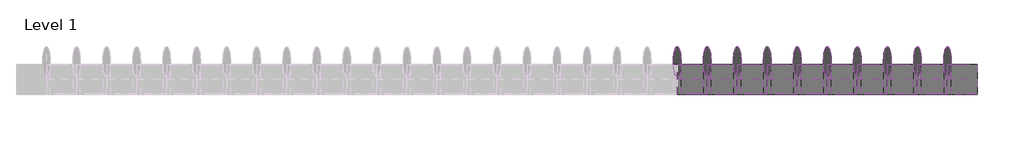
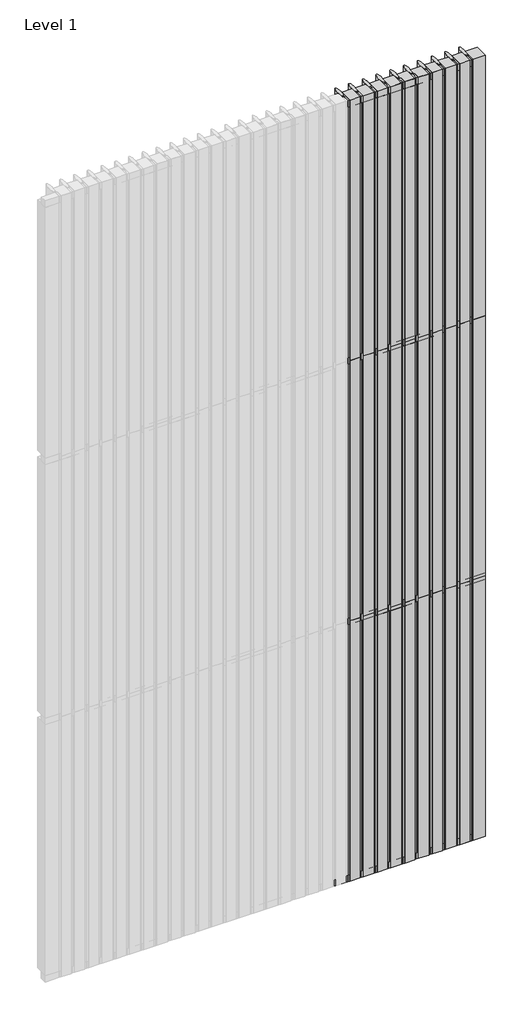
# One storey, part 6 of 6: 71 members, 60 plates.
"""IFC4 building model written with IfcOpenShell, lengths in millimetres."""

from ifc_helpers import new_model, si_unit, origin, place, context, project, spatial, transform, mapped, element, save
from components import rectangular_mullion_31e9810d, rectangular_mullion_a3e25429, rectangular_mullion_cddbc660, rectangular_mullion_ae434dd9, empty_system_panel_empty_b0df5d9c, empty_system_panel_empty_de76a839, empty_system_panel_empty_5411477d, empty_system_panel_empty_c50988b4

model = new_model("IFC4")

# Units and contexts
model_context = context("Model", 3, world=origin())
ifc_project = project(units=[si_unit("LENGTHUNIT", "METRE", prefix="MILLI")], contexts=[model_context])

# Site, building, storey
site = spatial("IfcSite", under=ifc_project)
building = spatial("IfcBuilding", under=site)
storey = spatial("IfcBuildingStorey", under=building, Name="Level 1", Elevation=0.0)

# Members
placement = place(None, origin())
rectangular_mullion_shape = rectangular_mullion_31e9810d(model_context)
element("IfcMember", 1, ObjectType="Rectangular Mullion : RSen_21_CWM_blade - 100 ellips - 0°_gen_duco projects", at=placement, inside=storey, context=model_context, shape_type="MappedRepresentation", body=[
    mapped(rectangular_mullion_shape, transform((5900.0, 3000.0, 0.0), x_axis=(-1.0, 0.0, 0.0), y_axis=(0.0, 1.0, 0.0), z_axis=(0.0, 0.0, -1.0))),
])
element("IfcMember", 2, ObjectType="Rectangular Mullion : RSen_21_CWM_blade - 100 ellips - 0°_gen_duco projects", at=placement, inside=storey, context=model_context, shape_type="MappedRepresentation", body=[
    mapped(rectangular_mullion_shape, transform((5800.0, 3000.0, 0.0), x_axis=(-1.0, 0.0, 0.0), y_axis=(0.0, 1.0, 0.0), z_axis=(0.0, 0.0, -1.0))),
])
element("IfcMember", 3, ObjectType="Rectangular Mullion : RSen_21_CWM_blade - 100 ellips - 0°_gen_duco projects", at=placement, inside=storey, context=model_context, shape_type="MappedRepresentation", body=[
    mapped(rectangular_mullion_shape, transform((5700.0, 3000.0, 0.0), x_axis=(-1.0, 0.0, 0.0), y_axis=(0.0, 1.0, 0.0), z_axis=(0.0, 0.0, -1.0))),
])
element("IfcMember", 4, ObjectType="Rectangular Mullion : RSen_21_CWM_blade - 100 ellips - 0°_gen_duco projects", at=placement, inside=storey, context=model_context, shape_type="MappedRepresentation", body=[
    mapped(rectangular_mullion_shape, transform((5600.0, 3000.0, 0.0), x_axis=(-1.0, 0.0, 0.0), y_axis=(0.0, 1.0, 0.0), z_axis=(0.0, 0.0, -1.0))),
])
element("IfcMember", 5, ObjectType="Rectangular Mullion : RSen_21_CWM_blade - 100 ellips - 0°_gen_duco projects", at=placement, inside=storey, context=model_context, shape_type="MappedRepresentation", body=[
    mapped(rectangular_mullion_shape, transform((5500.0, 3000.0, 0.0), x_axis=(-1.0, 0.0, 0.0), y_axis=(0.0, 1.0, 0.0), z_axis=(0.0, 0.0, -1.0))),
])
element("IfcMember", 6, ObjectType="Rectangular Mullion : RSen_21_CWM_blade - 100 ellips - 0°_gen_duco projects", at=placement, inside=storey, context=model_context, shape_type="MappedRepresentation", body=[
    mapped(rectangular_mullion_shape, transform((5400.0, 3000.0, 0.0), x_axis=(-1.0, 0.0, 0.0), y_axis=(0.0, 1.0, 0.0), z_axis=(0.0, 0.0, -1.0))),
])
element("IfcMember", 7, ObjectType="Rectangular Mullion : RSen_21_CWM_blade - 100 ellips - 0°_gen_duco projects", at=placement, inside=storey, context=model_context, shape_type="MappedRepresentation", body=[
    mapped(rectangular_mullion_shape, transform((5300.0, 3000.0, 0.0), x_axis=(-1.0, 0.0, 0.0), y_axis=(0.0, 1.0, 0.0), z_axis=(0.0, 0.0, -1.0))),
])
element("IfcMember", 8, ObjectType="Rectangular Mullion : RSen_21_CWM_blade - 100 ellips - 0°_gen_duco projects", at=placement, inside=storey, context=model_context, shape_type="MappedRepresentation", body=[
    mapped(rectangular_mullion_shape, transform((5200.0, 3000.0, 0.0), x_axis=(-1.0, 0.0, 0.0), y_axis=(0.0, 1.0, 0.0), z_axis=(0.0, 0.0, -1.0))),
])
element("IfcMember", 9, ObjectType="Rectangular Mullion : RSen_21_CWM_blade - 100 ellips - 0°_gen_duco projects", at=placement, inside=storey, context=model_context, shape_type="MappedRepresentation", body=[
    mapped(rectangular_mullion_shape, transform((5100.0, 3000.0, 0.0), x_axis=(-1.0, 0.0, 0.0), y_axis=(0.0, 1.0, 0.0), z_axis=(0.0, 0.0, -1.0))),
])
element("IfcMember", 10, ObjectType="Rectangular Mullion : RSen_21_CWM_blade - 100 ellips - 0°_gen_duco projects", at=placement, inside=storey, context=model_context, shape_type="MappedRepresentation", body=[
    mapped(rectangular_mullion_shape, transform((5000.0, 3000.0, 0.0), x_axis=(-1.0, 0.0, 0.0), y_axis=(0.0, 1.0, 0.0), z_axis=(0.0, 0.0, -1.0))),
])
element("IfcMember", 11, ObjectType="Rectangular Mullion : RSen_21_CWM_blade - 100 ellips - 0°_gen_duco projects", at=placement, inside=storey, context=model_context, shape_type="MappedRepresentation", body=[
    mapped(rectangular_mullion_shape, transform((5900.0, 3000.0, 2000.0), x_axis=(-1.0, 0.0, 0.0), y_axis=(0.0, 1.0, 0.0), z_axis=(0.0, 0.0, -1.0))),
])
element("IfcMember", 12, ObjectType="Rectangular Mullion : RSen_21_CWM_blade - 100 ellips - 0°_gen_duco projects", at=placement, inside=storey, context=model_context, shape_type="MappedRepresentation", body=[
    mapped(rectangular_mullion_shape, transform((5800.0, 3000.0, 2000.0), x_axis=(-1.0, 0.0, 0.0), y_axis=(0.0, 1.0, 0.0), z_axis=(0.0, 0.0, -1.0))),
])
element("IfcMember", 13, ObjectType="Rectangular Mullion : RSen_21_CWM_blade - 100 ellips - 0°_gen_duco projects", at=placement, inside=storey, context=model_context, shape_type="MappedRepresentation", body=[
    mapped(rectangular_mullion_shape, transform((5700.0, 3000.0, 2000.0), x_axis=(-1.0, 0.0, 0.0), y_axis=(0.0, 1.0, 0.0), z_axis=(0.0, 0.0, -1.0))),
])
element("IfcMember", 14, ObjectType="Rectangular Mullion : RSen_21_CWM_blade - 100 ellips - 0°_gen_duco projects", at=placement, inside=storey, context=model_context, shape_type="MappedRepresentation", body=[
    mapped(rectangular_mullion_shape, transform((5600.0, 3000.0, 2000.0), x_axis=(-1.0, 0.0, 0.0), y_axis=(0.0, 1.0, 0.0), z_axis=(0.0, 0.0, -1.0))),
])
element("IfcMember", 15, ObjectType="Rectangular Mullion : RSen_21_CWM_blade - 100 ellips - 0°_gen_duco projects", at=placement, inside=storey, context=model_context, shape_type="MappedRepresentation", body=[
    mapped(rectangular_mullion_shape, transform((5500.0, 3000.0, 2000.0), x_axis=(-1.0, 0.0, 0.0), y_axis=(0.0, 1.0, 0.0), z_axis=(0.0, 0.0, -1.0))),
])
element("IfcMember", 16, ObjectType="Rectangular Mullion : RSen_21_CWM_blade - 100 ellips - 0°_gen_duco projects", at=placement, inside=storey, context=model_context, shape_type="MappedRepresentation", body=[
    mapped(rectangular_mullion_shape, transform((5400.0, 3000.0, 2000.0), x_axis=(-1.0, 0.0, 0.0), y_axis=(0.0, 1.0, 0.0), z_axis=(0.0, 0.0, -1.0))),
])
element("IfcMember", 17, ObjectType="Rectangular Mullion : RSen_21_CWM_blade - 100 ellips - 0°_gen_duco projects", at=placement, inside=storey, context=model_context, shape_type="MappedRepresentation", body=[
    mapped(rectangular_mullion_shape, transform((5300.0, 3000.0, 2000.0), x_axis=(-1.0, 0.0, 0.0), y_axis=(0.0, 1.0, 0.0), z_axis=(0.0, 0.0, -1.0))),
])
element("IfcMember", 18, ObjectType="Rectangular Mullion : RSen_21_CWM_blade - 100 ellips - 0°_gen_duco projects", at=placement, inside=storey, context=model_context, shape_type="MappedRepresentation", body=[
    mapped(rectangular_mullion_shape, transform((5200.0, 3000.0, 2000.0), x_axis=(-1.0, 0.0, 0.0), y_axis=(0.0, 1.0, 0.0), z_axis=(0.0, 0.0, -1.0))),
])
element("IfcMember", 19, ObjectType="Rectangular Mullion : RSen_21_CWM_blade - 100 ellips - 0°_gen_duco projects", at=placement, inside=storey, context=model_context, shape_type="MappedRepresentation", body=[
    mapped(rectangular_mullion_shape, transform((5100.0, 3000.0, 2000.0), x_axis=(-1.0, 0.0, 0.0), y_axis=(0.0, 1.0, 0.0), z_axis=(0.0, 0.0, -1.0))),
])
element("IfcMember", 20, ObjectType="Rectangular Mullion : RSen_21_CWM_blade - 100 ellips - 0°_gen_duco projects", at=placement, inside=storey, context=model_context, shape_type="MappedRepresentation", body=[
    mapped(rectangular_mullion_shape, transform((5000.0, 3000.0, 2000.0), x_axis=(-1.0, 0.0, 0.0), y_axis=(0.0, 1.0, 0.0), z_axis=(0.0, 0.0, -1.0))),
])
element("IfcMember", 21, ObjectType="Rectangular Mullion : RSen_21_CWM_blade - 100 ellips - 0°_gen_duco projects", at=placement, inside=storey, context=model_context, shape_type="MappedRepresentation", body=[
    mapped(rectangular_mullion_shape, transform((5900.0, 3000.0, 4000.0), x_axis=(-1.0, 0.0, 0.0), y_axis=(0.0, 1.0, 0.0), z_axis=(0.0, 0.0, -1.0))),
])
element("IfcMember", 22, ObjectType="Rectangular Mullion : RSen_21_CWM_blade - 100 ellips - 0°_gen_duco projects", at=placement, inside=storey, context=model_context, shape_type="MappedRepresentation", body=[
    mapped(rectangular_mullion_shape, transform((5800.0, 3000.0, 4000.0), x_axis=(-1.0, 0.0, 0.0), y_axis=(0.0, 1.0, 0.0), z_axis=(0.0, 0.0, -1.0))),
])
element("IfcMember", 23, ObjectType="Rectangular Mullion : RSen_21_CWM_blade - 100 ellips - 0°_gen_duco projects", at=placement, inside=storey, context=model_context, shape_type="MappedRepresentation", body=[
    mapped(rectangular_mullion_shape, transform((5700.0, 3000.0, 4000.0), x_axis=(-1.0, 0.0, 0.0), y_axis=(0.0, 1.0, 0.0), z_axis=(0.0, 0.0, -1.0))),
])
element("IfcMember", 24, ObjectType="Rectangular Mullion : RSen_21_CWM_blade - 100 ellips - 0°_gen_duco projects", at=placement, inside=storey, context=model_context, shape_type="MappedRepresentation", body=[
    mapped(rectangular_mullion_shape, transform((5600.0, 3000.0, 4000.0), x_axis=(-1.0, 0.0, 0.0), y_axis=(0.0, 1.0, 0.0), z_axis=(0.0, 0.0, -1.0))),
])
element("IfcMember", 25, ObjectType="Rectangular Mullion : RSen_21_CWM_blade - 100 ellips - 0°_gen_duco projects", at=placement, inside=storey, context=model_context, shape_type="MappedRepresentation", body=[
    mapped(rectangular_mullion_shape, transform((5500.0, 3000.0, 4000.0), x_axis=(-1.0, 0.0, 0.0), y_axis=(0.0, 1.0, 0.0), z_axis=(0.0, 0.0, -1.0))),
])
element("IfcMember", 26, ObjectType="Rectangular Mullion : RSen_21_CWM_blade - 100 ellips - 0°_gen_duco projects", at=placement, inside=storey, context=model_context, shape_type="MappedRepresentation", body=[
    mapped(rectangular_mullion_shape, transform((5400.0, 3000.0, 4000.0), x_axis=(-1.0, 0.0, 0.0), y_axis=(0.0, 1.0, 0.0), z_axis=(0.0, 0.0, -1.0))),
])
element("IfcMember", 27, ObjectType="Rectangular Mullion : RSen_21_CWM_blade - 100 ellips - 0°_gen_duco projects", at=placement, inside=storey, context=model_context, shape_type="MappedRepresentation", body=[
    mapped(rectangular_mullion_shape, transform((5300.0, 3000.0, 4000.0), x_axis=(-1.0, 0.0, 0.0), y_axis=(0.0, 1.0, 0.0), z_axis=(0.0, 0.0, -1.0))),
])
element("IfcMember", 28, ObjectType="Rectangular Mullion : RSen_21_CWM_blade - 100 ellips - 0°_gen_duco projects", at=placement, inside=storey, context=model_context, shape_type="MappedRepresentation", body=[
    mapped(rectangular_mullion_shape, transform((5200.0, 3000.0, 4000.0), x_axis=(-1.0, 0.0, 0.0), y_axis=(0.0, 1.0, 0.0), z_axis=(0.0, 0.0, -1.0))),
])
element("IfcMember", 29, ObjectType="Rectangular Mullion : RSen_21_CWM_blade - 100 ellips - 0°_gen_duco projects", at=placement, inside=storey, context=model_context, shape_type="MappedRepresentation", body=[
    mapped(rectangular_mullion_shape, transform((5100.0, 3000.0, 4000.0), x_axis=(-1.0, 0.0, 0.0), y_axis=(0.0, 1.0, 0.0), z_axis=(0.0, 0.0, -1.0))),
])
element("IfcMember", 30, ObjectType="Rectangular Mullion : RSen_21_CWM_blade - 100 ellips - 0°_gen_duco projects", at=placement, inside=storey, context=model_context, shape_type="MappedRepresentation", body=[
    mapped(rectangular_mullion_shape, transform((5000.0, 3000.0, 4000.0), x_axis=(-1.0, 0.0, 0.0), y_axis=(0.0, 1.0, 0.0), z_axis=(0.0, 0.0, -1.0))),
])
rectangular_mullion_2_shape = rectangular_mullion_a3e25429(model_context)
element("IfcMember", 31, ObjectType="Rectangular Mullion : RSen_21_CWM_support profile 50x50 - right_gen_duco projects", at=placement, inside=storey, context=model_context, shape_type="MappedRepresentation", body=[
    mapped(rectangular_mullion_2_shape, transform((6000.0, 3000.0, 0.0), x_axis=(0.0, 0.0, -1.0), y_axis=(0.0, 1.0, 0.0), z_axis=(1.0, 0.0, 0.0))),
])
rectangular_mullion_3_shape = rectangular_mullion_cddbc660(model_context)
element("IfcMember", 32, ObjectType="Rectangular Mullion : RSen_21_CWM_support profile 50x50 - left_gen_duco projects", at=placement, inside=storey, context=model_context, shape_type="MappedRepresentation", body=[
    mapped(rectangular_mullion_3_shape, transform((5900.0, 3000.0, 6000.0), x_axis=(0.0, 0.0, 1.0), y_axis=(0.0, 1.0, 0.0), z_axis=(-1.0, 0.0, 0.0))),
])
element("IfcMember", 33, ObjectType="Rectangular Mullion : RSen_21_CWM_support profile 50x50 - left_gen_duco projects", at=placement, inside=storey, context=model_context, shape_type="MappedRepresentation", body=[
    mapped(rectangular_mullion_3_shape, transform((5800.0, 3000.0, 6000.0), x_axis=(0.0, 0.0, 1.0), y_axis=(0.0, 1.0, 0.0), z_axis=(-1.0, 0.0, 0.0))),
])
element("IfcMember", 34, ObjectType="Rectangular Mullion : RSen_21_CWM_support profile 50x50 - left_gen_duco projects", at=placement, inside=storey, context=model_context, shape_type="MappedRepresentation", body=[
    mapped(rectangular_mullion_3_shape, transform((5700.0, 3000.0, 6000.0), x_axis=(0.0, 0.0, 1.0), y_axis=(0.0, 1.0, 0.0), z_axis=(-1.0, 0.0, 0.0))),
])
element("IfcMember", 35, ObjectType="Rectangular Mullion : RSen_21_CWM_support profile 50x50 - left_gen_duco projects", at=placement, inside=storey, context=model_context, shape_type="MappedRepresentation", body=[
    mapped(rectangular_mullion_3_shape, transform((5600.0, 3000.0, 6000.0), x_axis=(0.0, 0.0, 1.0), y_axis=(0.0, 1.0, 0.0), z_axis=(-1.0, 0.0, 0.0))),
])
element("IfcMember", 36, ObjectType="Rectangular Mullion : RSen_21_CWM_support profile 50x50 - left_gen_duco projects", at=placement, inside=storey, context=model_context, shape_type="MappedRepresentation", body=[
    mapped(rectangular_mullion_3_shape, transform((5500.0, 3000.0, 6000.0), x_axis=(0.0, 0.0, 1.0), y_axis=(0.0, 1.0, 0.0), z_axis=(-1.0, 0.0, 0.0))),
])
element("IfcMember", 37, ObjectType="Rectangular Mullion : RSen_21_CWM_support profile 50x50 - left_gen_duco projects", at=placement, inside=storey, context=model_context, shape_type="MappedRepresentation", body=[
    mapped(rectangular_mullion_3_shape, transform((5400.0, 3000.0, 6000.0), x_axis=(0.0, 0.0, 1.0), y_axis=(0.0, 1.0, 0.0), z_axis=(-1.0, 0.0, 0.0))),
])
element("IfcMember", 38, ObjectType="Rectangular Mullion : RSen_21_CWM_support profile 50x50 - left_gen_duco projects", at=placement, inside=storey, context=model_context, shape_type="MappedRepresentation", body=[
    mapped(rectangular_mullion_3_shape, transform((5300.0, 3000.0, 6000.0), x_axis=(0.0, 0.0, 1.0), y_axis=(0.0, 1.0, 0.0), z_axis=(-1.0, 0.0, 0.0))),
])
element("IfcMember", 39, ObjectType="Rectangular Mullion : RSen_21_CWM_support profile 50x50 - left_gen_duco projects", at=placement, inside=storey, context=model_context, shape_type="MappedRepresentation", body=[
    mapped(rectangular_mullion_3_shape, transform((5200.0, 3000.0, 6000.0), x_axis=(0.0, 0.0, 1.0), y_axis=(0.0, 1.0, 0.0), z_axis=(-1.0, 0.0, 0.0))),
])
element("IfcMember", 40, ObjectType="Rectangular Mullion : RSen_21_CWM_support profile 50x50 - left_gen_duco projects", at=placement, inside=storey, context=model_context, shape_type="MappedRepresentation", body=[
    mapped(rectangular_mullion_3_shape, transform((5100.0, 3000.0, 6000.0), x_axis=(0.0, 0.0, 1.0), y_axis=(0.0, 1.0, 0.0), z_axis=(-1.0, 0.0, 0.0))),
])
element("IfcMember", 41, ObjectType="Rectangular Mullion : RSen_21_CWM_support profile 50x50 - left_gen_duco projects", at=placement, inside=storey, context=model_context, shape_type="MappedRepresentation", body=[
    mapped(rectangular_mullion_3_shape, transform((5000.0, 3000.0, 6000.0), x_axis=(0.0, 0.0, 1.0), y_axis=(0.0, 1.0, 0.0), z_axis=(-1.0, 0.0, 0.0))),
])
element("IfcMember", 42, ObjectType="Rectangular Mullion : RSen_21_CWM_support profile 50x50 - right_gen_duco projects", at=placement, inside=storey, context=model_context, shape_type="MappedRepresentation", body=[
    mapped(rectangular_mullion_2_shape, transform((5900.0, 3000.0, 0.0), x_axis=(0.0, 0.0, -1.0), y_axis=(0.0, 1.0, 0.0), z_axis=(1.0, 0.0, 0.0))),
])
element("IfcMember", 43, ObjectType="Rectangular Mullion : RSen_21_CWM_support profile 50x50 - right_gen_duco projects", at=placement, inside=storey, context=model_context, shape_type="MappedRepresentation", body=[
    mapped(rectangular_mullion_2_shape, transform((5800.0, 3000.0, 0.0), x_axis=(0.0, 0.0, -1.0), y_axis=(0.0, 1.0, 0.0), z_axis=(1.0, 0.0, 0.0))),
])
element("IfcMember", 44, ObjectType="Rectangular Mullion : RSen_21_CWM_support profile 50x50 - right_gen_duco projects", at=placement, inside=storey, context=model_context, shape_type="MappedRepresentation", body=[
    mapped(rectangular_mullion_2_shape, transform((5700.0, 3000.0, 0.0), x_axis=(0.0, 0.0, -1.0), y_axis=(0.0, 1.0, 0.0), z_axis=(1.0, 0.0, 0.0))),
])
element("IfcMember", 45, ObjectType="Rectangular Mullion : RSen_21_CWM_support profile 50x50 - right_gen_duco projects", at=placement, inside=storey, context=model_context, shape_type="MappedRepresentation", body=[
    mapped(rectangular_mullion_2_shape, transform((5600.0, 3000.0, 0.0), x_axis=(0.0, 0.0, -1.0), y_axis=(0.0, 1.0, 0.0), z_axis=(1.0, 0.0, 0.0))),
])
element("IfcMember", 46, ObjectType="Rectangular Mullion : RSen_21_CWM_support profile 50x50 - right_gen_duco projects", at=placement, inside=storey, context=model_context, shape_type="MappedRepresentation", body=[
    mapped(rectangular_mullion_2_shape, transform((5500.0, 3000.0, 0.0), x_axis=(0.0, 0.0, -1.0), y_axis=(0.0, 1.0, 0.0), z_axis=(1.0, 0.0, 0.0))),
])
element("IfcMember", 47, ObjectType="Rectangular Mullion : RSen_21_CWM_support profile 50x50 - right_gen_duco projects", at=placement, inside=storey, context=model_context, shape_type="MappedRepresentation", body=[
    mapped(rectangular_mullion_2_shape, transform((5400.0, 3000.0, 0.0), x_axis=(0.0, 0.0, -1.0), y_axis=(0.0, 1.0, 0.0), z_axis=(1.0, 0.0, 0.0))),
])
element("IfcMember", 48, ObjectType="Rectangular Mullion : RSen_21_CWM_support profile 50x50 - right_gen_duco projects", at=placement, inside=storey, context=model_context, shape_type="MappedRepresentation", body=[
    mapped(rectangular_mullion_2_shape, transform((5300.0, 3000.0, 0.0), x_axis=(0.0, 0.0, -1.0), y_axis=(0.0, 1.0, 0.0), z_axis=(1.0, 0.0, 0.0))),
])
element("IfcMember", 49, ObjectType="Rectangular Mullion : RSen_21_CWM_support profile 50x50 - right_gen_duco projects", at=placement, inside=storey, context=model_context, shape_type="MappedRepresentation", body=[
    mapped(rectangular_mullion_2_shape, transform((5200.0, 3000.0, 0.0), x_axis=(0.0, 0.0, -1.0), y_axis=(0.0, 1.0, 0.0), z_axis=(1.0, 0.0, 0.0))),
])
element("IfcMember", 50, ObjectType="Rectangular Mullion : RSen_21_CWM_support profile 50x50 - right_gen_duco projects", at=placement, inside=storey, context=model_context, shape_type="MappedRepresentation", body=[
    mapped(rectangular_mullion_2_shape, transform((5100.0, 3000.0, 0.0), x_axis=(0.0, 0.0, -1.0), y_axis=(0.0, 1.0, 0.0), z_axis=(1.0, 0.0, 0.0))),
])
element("IfcMember", 51, ObjectType="Rectangular Mullion : RSen_21_CWM_support profile 50x50 - right_gen_duco projects", at=placement, inside=storey, context=model_context, shape_type="MappedRepresentation", body=[
    mapped(rectangular_mullion_2_shape, transform((5000.0, 3000.0, 0.0), x_axis=(0.0, 0.0, -1.0), y_axis=(0.0, 1.0, 0.0), z_axis=(1.0, 0.0, 0.0))),
])
rectangular_mullion_4_shape = rectangular_mullion_ae434dd9(model_context)
element("IfcMember", 52, ObjectType="Rectangular Mullion : RSen_21_CWM_support profile 50x50_gen_duco projects", at=placement, inside=storey, context=model_context, shape_type="MappedRepresentation", body=[
    mapped(rectangular_mullion_4_shape, transform((5900.0, 3000.0, 2000.0), x_axis=(0.0, 0.0, 1.0), y_axis=(0.0, 1.0, 0.0), z_axis=(-1.0, 0.0, 0.0))),
])
element("IfcMember", 53, ObjectType="Rectangular Mullion : RSen_21_CWM_support profile 50x50_gen_duco projects", at=placement, inside=storey, context=model_context, shape_type="MappedRepresentation", body=[
    mapped(rectangular_mullion_4_shape, transform((5900.0, 3000.0, 4000.0), x_axis=(0.0, 0.0, 1.0), y_axis=(0.0, 1.0, 0.0), z_axis=(-1.0, 0.0, 0.0))),
])
element("IfcMember", 54, ObjectType="Rectangular Mullion : RSen_21_CWM_support profile 50x50_gen_duco projects", at=placement, inside=storey, context=model_context, shape_type="MappedRepresentation", body=[
    mapped(rectangular_mullion_4_shape, transform((5800.0, 3000.0, 2000.0), x_axis=(0.0, 0.0, 1.0), y_axis=(0.0, 1.0, 0.0), z_axis=(-1.0, 0.0, 0.0))),
])
element("IfcMember", 55, ObjectType="Rectangular Mullion : RSen_21_CWM_support profile 50x50_gen_duco projects", at=placement, inside=storey, context=model_context, shape_type="MappedRepresentation", body=[
    mapped(rectangular_mullion_4_shape, transform((5700.0, 3000.0, 2000.0), x_axis=(0.0, 0.0, 1.0), y_axis=(0.0, 1.0, 0.0), z_axis=(-1.0, 0.0, 0.0))),
])
element("IfcMember", 56, ObjectType="Rectangular Mullion : RSen_21_CWM_support profile 50x50_gen_duco projects", at=placement, inside=storey, context=model_context, shape_type="MappedRepresentation", body=[
    mapped(rectangular_mullion_4_shape, transform((5600.0, 3000.0, 2000.0), x_axis=(0.0, 0.0, 1.0), y_axis=(0.0, 1.0, 0.0), z_axis=(-1.0, 0.0, 0.0))),
])
element("IfcMember", 57, ObjectType="Rectangular Mullion : RSen_21_CWM_support profile 50x50_gen_duco projects", at=placement, inside=storey, context=model_context, shape_type="MappedRepresentation", body=[
    mapped(rectangular_mullion_4_shape, transform((5500.0, 3000.0, 2000.0), x_axis=(0.0, 0.0, 1.0), y_axis=(0.0, 1.0, 0.0), z_axis=(-1.0, 0.0, 0.0))),
])
element("IfcMember", 58, ObjectType="Rectangular Mullion : RSen_21_CWM_support profile 50x50_gen_duco projects", at=placement, inside=storey, context=model_context, shape_type="MappedRepresentation", body=[
    mapped(rectangular_mullion_4_shape, transform((5400.0, 3000.0, 2000.0), x_axis=(0.0, 0.0, 1.0), y_axis=(0.0, 1.0, 0.0), z_axis=(-1.0, 0.0, 0.0))),
])
element("IfcMember", 59, ObjectType="Rectangular Mullion : RSen_21_CWM_support profile 50x50_gen_duco projects", at=placement, inside=storey, context=model_context, shape_type="MappedRepresentation", body=[
    mapped(rectangular_mullion_4_shape, transform((5300.0, 3000.0, 2000.0), x_axis=(0.0, 0.0, 1.0), y_axis=(0.0, 1.0, 0.0), z_axis=(-1.0, 0.0, 0.0))),
])
element("IfcMember", 60, ObjectType="Rectangular Mullion : RSen_21_CWM_support profile 50x50_gen_duco projects", at=placement, inside=storey, context=model_context, shape_type="MappedRepresentation", body=[
    mapped(rectangular_mullion_4_shape, transform((5200.0, 3000.0, 2000.0), x_axis=(0.0, 0.0, 1.0), y_axis=(0.0, 1.0, 0.0), z_axis=(-1.0, 0.0, 0.0))),
])
element("IfcMember", 61, ObjectType="Rectangular Mullion : RSen_21_CWM_support profile 50x50_gen_duco projects", at=placement, inside=storey, context=model_context, shape_type="MappedRepresentation", body=[
    mapped(rectangular_mullion_4_shape, transform((5100.0, 3000.0, 2000.0), x_axis=(0.0, 0.0, 1.0), y_axis=(0.0, 1.0, 0.0), z_axis=(-1.0, 0.0, 0.0))),
])
element("IfcMember", 62, ObjectType="Rectangular Mullion : RSen_21_CWM_support profile 50x50_gen_duco projects", at=placement, inside=storey, context=model_context, shape_type="MappedRepresentation", body=[
    mapped(rectangular_mullion_4_shape, transform((5000.0, 3000.0, 2000.0), x_axis=(0.0, 0.0, 1.0), y_axis=(0.0, 1.0, 0.0), z_axis=(-1.0, 0.0, 0.0))),
])
element("IfcMember", 63, ObjectType="Rectangular Mullion : RSen_21_CWM_support profile 50x50_gen_duco projects", at=placement, inside=storey, context=model_context, shape_type="MappedRepresentation", body=[
    mapped(rectangular_mullion_4_shape, transform((5800.0, 3000.0, 4000.0), x_axis=(0.0, 0.0, 1.0), y_axis=(0.0, 1.0, 0.0), z_axis=(-1.0, 0.0, 0.0))),
])
element("IfcMember", 64, ObjectType="Rectangular Mullion : RSen_21_CWM_support profile 50x50_gen_duco projects", at=placement, inside=storey, context=model_context, shape_type="MappedRepresentation", body=[
    mapped(rectangular_mullion_4_shape, transform((5700.0, 3000.0, 4000.0), x_axis=(0.0, 0.0, 1.0), y_axis=(0.0, 1.0, 0.0), z_axis=(-1.0, 0.0, 0.0))),
])
element("IfcMember", 65, ObjectType="Rectangular Mullion : RSen_21_CWM_support profile 50x50_gen_duco projects", at=placement, inside=storey, context=model_context, shape_type="MappedRepresentation", body=[
    mapped(rectangular_mullion_4_shape, transform((5600.0, 3000.0, 4000.0), x_axis=(0.0, 0.0, 1.0), y_axis=(0.0, 1.0, 0.0), z_axis=(-1.0, 0.0, 0.0))),
])
element("IfcMember", 66, ObjectType="Rectangular Mullion : RSen_21_CWM_support profile 50x50_gen_duco projects", at=placement, inside=storey, context=model_context, shape_type="MappedRepresentation", body=[
    mapped(rectangular_mullion_4_shape, transform((5500.0, 3000.0, 4000.0), x_axis=(0.0, 0.0, 1.0), y_axis=(0.0, 1.0, 0.0), z_axis=(-1.0, 0.0, 0.0))),
])
element("IfcMember", 67, ObjectType="Rectangular Mullion : RSen_21_CWM_support profile 50x50_gen_duco projects", at=placement, inside=storey, context=model_context, shape_type="MappedRepresentation", body=[
    mapped(rectangular_mullion_4_shape, transform((5400.0, 3000.0, 4000.0), x_axis=(0.0, 0.0, 1.0), y_axis=(0.0, 1.0, 0.0), z_axis=(-1.0, 0.0, 0.0))),
])
element("IfcMember", 68, ObjectType="Rectangular Mullion : RSen_21_CWM_support profile 50x50_gen_duco projects", at=placement, inside=storey, context=model_context, shape_type="MappedRepresentation", body=[
    mapped(rectangular_mullion_4_shape, transform((5300.0, 3000.0, 4000.0), x_axis=(0.0, 0.0, 1.0), y_axis=(0.0, 1.0, 0.0), z_axis=(-1.0, 0.0, 0.0))),
])
element("IfcMember", 69, ObjectType="Rectangular Mullion : RSen_21_CWM_support profile 50x50_gen_duco projects", at=placement, inside=storey, context=model_context, shape_type="MappedRepresentation", body=[
    mapped(rectangular_mullion_4_shape, transform((5200.0, 3000.0, 4000.0), x_axis=(0.0, 0.0, 1.0), y_axis=(0.0, 1.0, 0.0), z_axis=(-1.0, 0.0, 0.0))),
])
element("IfcMember", 70, ObjectType="Rectangular Mullion : RSen_21_CWM_support profile 50x50_gen_duco projects", at=placement, inside=storey, context=model_context, shape_type="MappedRepresentation", body=[
    mapped(rectangular_mullion_4_shape, transform((5100.0, 3000.0, 4000.0), x_axis=(0.0, 0.0, 1.0), y_axis=(0.0, 1.0, 0.0), z_axis=(-1.0, 0.0, 0.0))),
])
element("IfcMember", 71, ObjectType="Rectangular Mullion : RSen_21_CWM_support profile 50x50_gen_duco projects", at=placement, inside=storey, context=model_context, shape_type="MappedRepresentation", body=[
    mapped(rectangular_mullion_4_shape, transform((5000.0, 3000.0, 4000.0), x_axis=(0.0, 0.0, 1.0), y_axis=(0.0, 1.0, 0.0), z_axis=(-1.0, 0.0, 0.0))),
])

# Plates
empty_system_panel_empty_shape = empty_system_panel_empty_b0df5d9c(model_context)
element("IfcPlate", 72, ObjectType="Empty System Panel : Empty", at=placement, inside=storey, context=model_context, shape_type="MappedRepresentation", body=[
    mapped(empty_system_panel_empty_shape, transform((5956.5, 3000.0, 0.0), x_axis=(-1.0, 0.0, 0.0), y_axis=(0.0, -1.0, 0.0), z_axis=(0.0, 0.0, 1.0))),
])
element("IfcPlate", 73, ObjectType="Empty System Panel : Empty", at=placement, inside=storey, context=model_context, shape_type="MappedRepresentation", body=[
    mapped(empty_system_panel_empty_shape, transform((5956.5, 3000.0, 2000.0), x_axis=(-1.0, 0.0, 0.0), y_axis=(0.0, -1.0, 0.0), z_axis=(0.0, 0.0, 1.0))),
])
element("IfcPlate", 74, ObjectType="Empty System Panel : Empty", at=placement, inside=storey, context=model_context, shape_type="MappedRepresentation", body=[
    mapped(empty_system_panel_empty_shape, transform((5956.5, 3000.0, 4000.0), x_axis=(-1.0, 0.0, 0.0), y_axis=(0.0, -1.0, 0.0), z_axis=(0.0, 0.0, 1.0))),
])
empty_system_panel_empty_2_shape = empty_system_panel_empty_de76a839(model_context)
element("IfcPlate", 75, ObjectType="Empty System Panel : Empty", at=placement, inside=storey, context=model_context, shape_type="MappedRepresentation", body=[
    mapped(empty_system_panel_empty_2_shape, transform((5850.0, 3000.0, 0.0), x_axis=(-1.0, 0.0, 0.0), y_axis=(0.0, -1.0, 0.0), z_axis=(0.0, 0.0, 1.0))),
])
element("IfcPlate", 76, ObjectType="Empty System Panel : Empty", at=placement, inside=storey, context=model_context, shape_type="MappedRepresentation", body=[
    mapped(empty_system_panel_empty_2_shape, transform((5750.0, 3000.0, 0.0), x_axis=(-1.0, 0.0, 0.0), y_axis=(0.0, -1.0, 0.0), z_axis=(0.0, 0.0, 1.0))),
])
element("IfcPlate", 77, ObjectType="Empty System Panel : Empty", at=placement, inside=storey, context=model_context, shape_type="MappedRepresentation", body=[
    mapped(empty_system_panel_empty_2_shape, transform((5650.0, 3000.0, 0.0), x_axis=(-1.0, 0.0, 0.0), y_axis=(0.0, -1.0, 0.0), z_axis=(0.0, 0.0, 1.0))),
])
element("IfcPlate", 78, ObjectType="Empty System Panel : Empty", at=placement, inside=storey, context=model_context, shape_type="MappedRepresentation", body=[
    mapped(empty_system_panel_empty_2_shape, transform((5550.0, 3000.0, 0.0), x_axis=(-1.0, 0.0, 0.0), y_axis=(0.0, -1.0, 0.0), z_axis=(0.0, 0.0, 1.0))),
])
element("IfcPlate", 79, ObjectType="Empty System Panel : Empty", at=placement, inside=storey, context=model_context, shape_type="MappedRepresentation", body=[
    mapped(empty_system_panel_empty_2_shape, transform((5450.0, 3000.0, 0.0), x_axis=(-1.0, 0.0, 0.0), y_axis=(0.0, -1.0, 0.0), z_axis=(0.0, 0.0, 1.0))),
])
element("IfcPlate", 80, ObjectType="Empty System Panel : Empty", at=placement, inside=storey, context=model_context, shape_type="MappedRepresentation", body=[
    mapped(empty_system_panel_empty_2_shape, transform((5350.0, 3000.0, 0.0), x_axis=(-1.0, 0.0, 0.0), y_axis=(0.0, -1.0, 0.0), z_axis=(0.0, 0.0, 1.0))),
])
element("IfcPlate", 81, ObjectType="Empty System Panel : Empty", at=placement, inside=storey, context=model_context, shape_type="MappedRepresentation", body=[
    mapped(empty_system_panel_empty_2_shape, transform((5250.0, 3000.0, 0.0), x_axis=(-1.0, 0.0, 0.0), y_axis=(0.0, -1.0, 0.0), z_axis=(0.0, 0.0, 1.0))),
])
element("IfcPlate", 82, ObjectType="Empty System Panel : Empty", at=placement, inside=storey, context=model_context, shape_type="MappedRepresentation", body=[
    mapped(empty_system_panel_empty_2_shape, transform((5150.0, 3000.0, 0.0), x_axis=(-1.0, 0.0, 0.0), y_axis=(0.0, -1.0, 0.0), z_axis=(0.0, 0.0, 1.0))),
])
element("IfcPlate", 83, ObjectType="Empty System Panel : Empty", at=placement, inside=storey, context=model_context, shape_type="MappedRepresentation", body=[
    mapped(empty_system_panel_empty_2_shape, transform((5050.0, 3000.0, 0.0), x_axis=(-1.0, 0.0, 0.0), y_axis=(0.0, -1.0, 0.0), z_axis=(0.0, 0.0, 1.0))),
])
element("IfcPlate", 84, ObjectType="Empty System Panel : Empty", at=placement, inside=storey, context=model_context, shape_type="MappedRepresentation", body=[
    mapped(empty_system_panel_empty_2_shape, transform((5850.0, 3000.0, 2000.0), x_axis=(-1.0, 0.0, 0.0), y_axis=(0.0, -1.0, 0.0), z_axis=(0.0, 0.0, 1.0))),
])
element("IfcPlate", 85, ObjectType="Empty System Panel : Empty", at=placement, inside=storey, context=model_context, shape_type="MappedRepresentation", body=[
    mapped(empty_system_panel_empty_2_shape, transform((5750.0, 3000.0, 2000.0), x_axis=(-1.0, 0.0, 0.0), y_axis=(0.0, -1.0, 0.0), z_axis=(0.0, 0.0, 1.0))),
])
element("IfcPlate", 86, ObjectType="Empty System Panel : Empty", at=placement, inside=storey, context=model_context, shape_type="MappedRepresentation", body=[
    mapped(empty_system_panel_empty_2_shape, transform((5650.0, 3000.0, 2000.0), x_axis=(-1.0, 0.0, 0.0), y_axis=(0.0, -1.0, 0.0), z_axis=(0.0, 0.0, 1.0))),
])
element("IfcPlate", 87, ObjectType="Empty System Panel : Empty", at=placement, inside=storey, context=model_context, shape_type="MappedRepresentation", body=[
    mapped(empty_system_panel_empty_2_shape, transform((5550.0, 3000.0, 2000.0), x_axis=(-1.0, 0.0, 0.0), y_axis=(0.0, -1.0, 0.0), z_axis=(0.0, 0.0, 1.0))),
])
element("IfcPlate", 88, ObjectType="Empty System Panel : Empty", at=placement, inside=storey, context=model_context, shape_type="MappedRepresentation", body=[
    mapped(empty_system_panel_empty_2_shape, transform((5450.0, 3000.0, 2000.0), x_axis=(-1.0, 0.0, 0.0), y_axis=(0.0, -1.0, 0.0), z_axis=(0.0, 0.0, 1.0))),
])
element("IfcPlate", 89, ObjectType="Empty System Panel : Empty", at=placement, inside=storey, context=model_context, shape_type="MappedRepresentation", body=[
    mapped(empty_system_panel_empty_2_shape, transform((5350.0, 3000.0, 2000.0), x_axis=(-1.0, 0.0, 0.0), y_axis=(0.0, -1.0, 0.0), z_axis=(0.0, 0.0, 1.0))),
])
element("IfcPlate", 90, ObjectType="Empty System Panel : Empty", at=placement, inside=storey, context=model_context, shape_type="MappedRepresentation", body=[
    mapped(empty_system_panel_empty_2_shape, transform((5250.0, 3000.0, 2000.0), x_axis=(-1.0, 0.0, 0.0), y_axis=(0.0, -1.0, 0.0), z_axis=(0.0, 0.0, 1.0))),
])
element("IfcPlate", 91, ObjectType="Empty System Panel : Empty", at=placement, inside=storey, context=model_context, shape_type="MappedRepresentation", body=[
    mapped(empty_system_panel_empty_2_shape, transform((5150.0, 3000.0, 2000.0), x_axis=(-1.0, 0.0, 0.0), y_axis=(0.0, -1.0, 0.0), z_axis=(0.0, 0.0, 1.0))),
])
element("IfcPlate", 92, ObjectType="Empty System Panel : Empty", at=placement, inside=storey, context=model_context, shape_type="MappedRepresentation", body=[
    mapped(empty_system_panel_empty_2_shape, transform((5050.0, 3000.0, 2000.0), x_axis=(-1.0, 0.0, 0.0), y_axis=(0.0, -1.0, 0.0), z_axis=(0.0, 0.0, 1.0))),
])
element("IfcPlate", 93, ObjectType="Empty System Panel : Empty", at=placement, inside=storey, context=model_context, shape_type="MappedRepresentation", body=[
    mapped(empty_system_panel_empty_2_shape, transform((5850.0, 3000.0, 4000.0), x_axis=(-1.0, 0.0, 0.0), y_axis=(0.0, -1.0, 0.0), z_axis=(0.0, 0.0, 1.0))),
])
element("IfcPlate", 94, ObjectType="Empty System Panel : Empty", at=placement, inside=storey, context=model_context, shape_type="MappedRepresentation", body=[
    mapped(empty_system_panel_empty_2_shape, transform((5750.0, 3000.0, 4000.0), x_axis=(-1.0, 0.0, 0.0), y_axis=(0.0, -1.0, 0.0), z_axis=(0.0, 0.0, 1.0))),
])
element("IfcPlate", 95, ObjectType="Empty System Panel : Empty", at=placement, inside=storey, context=model_context, shape_type="MappedRepresentation", body=[
    mapped(empty_system_panel_empty_2_shape, transform((5650.0, 3000.0, 4000.0), x_axis=(-1.0, 0.0, 0.0), y_axis=(0.0, -1.0, 0.0), z_axis=(0.0, 0.0, 1.0))),
])
element("IfcPlate", 96, ObjectType="Empty System Panel : Empty", at=placement, inside=storey, context=model_context, shape_type="MappedRepresentation", body=[
    mapped(empty_system_panel_empty_2_shape, transform((5550.0, 3000.0, 4000.0), x_axis=(-1.0, 0.0, 0.0), y_axis=(0.0, -1.0, 0.0), z_axis=(0.0, 0.0, 1.0))),
])
element("IfcPlate", 97, ObjectType="Empty System Panel : Empty", at=placement, inside=storey, context=model_context, shape_type="MappedRepresentation", body=[
    mapped(empty_system_panel_empty_2_shape, transform((5450.0, 3000.0, 4000.0), x_axis=(-1.0, 0.0, 0.0), y_axis=(0.0, -1.0, 0.0), z_axis=(0.0, 0.0, 1.0))),
])
element("IfcPlate", 98, ObjectType="Empty System Panel : Empty", at=placement, inside=storey, context=model_context, shape_type="MappedRepresentation", body=[
    mapped(empty_system_panel_empty_2_shape, transform((5350.0, 3000.0, 4000.0), x_axis=(-1.0, 0.0, 0.0), y_axis=(0.0, -1.0, 0.0), z_axis=(0.0, 0.0, 1.0))),
])
element("IfcPlate", 99, ObjectType="Empty System Panel : Empty", at=placement, inside=storey, context=model_context, shape_type="MappedRepresentation", body=[
    mapped(empty_system_panel_empty_2_shape, transform((5250.0, 3000.0, 4000.0), x_axis=(-1.0, 0.0, 0.0), y_axis=(0.0, -1.0, 0.0), z_axis=(0.0, 0.0, 1.0))),
])
element("IfcPlate", 100, ObjectType="Empty System Panel : Empty", at=placement, inside=storey, context=model_context, shape_type="MappedRepresentation", body=[
    mapped(empty_system_panel_empty_2_shape, transform((5150.0, 3000.0, 4000.0), x_axis=(-1.0, 0.0, 0.0), y_axis=(0.0, -1.0, 0.0), z_axis=(0.0, 0.0, 1.0))),
])
element("IfcPlate", 101, ObjectType="Empty System Panel : Empty", at=placement, inside=storey, context=model_context, shape_type="MappedRepresentation", body=[
    mapped(empty_system_panel_empty_2_shape, transform((5050.0, 3000.0, 4000.0), x_axis=(-1.0, 0.0, 0.0), y_axis=(0.0, -1.0, 0.0), z_axis=(0.0, 0.0, 1.0))),
])
empty_system_panel_empty_3_shape = empty_system_panel_empty_5411477d(model_context)
element("IfcPlate", 102, ObjectType="Empty System Panel : Empty", at=placement, inside=storey, context=model_context, shape_type="MappedRepresentation", body=[
    mapped(empty_system_panel_empty_3_shape, transform((5950.0, 3000.0, 50.0), x_axis=(-1.0, 0.0, 0.0), y_axis=(0.0, -1.0, 0.0), z_axis=(0.0, 0.0, 1.0))),
])
element("IfcPlate", 103, ObjectType="Empty System Panel : Empty", at=placement, inside=storey, context=model_context, shape_type="MappedRepresentation", body=[
    mapped(empty_system_panel_empty_3_shape, transform((5850.0, 3000.0, 50.0), x_axis=(-1.0, 0.0, 0.0), y_axis=(0.0, -1.0, 0.0), z_axis=(0.0, 0.0, 1.0))),
])
element("IfcPlate", 104, ObjectType="Empty System Panel : Empty", at=placement, inside=storey, context=model_context, shape_type="MappedRepresentation", body=[
    mapped(empty_system_panel_empty_3_shape, transform((5750.0, 3000.0, 50.0), x_axis=(-1.0, 0.0, 0.0), y_axis=(0.0, -1.0, 0.0), z_axis=(0.0, 0.0, 1.0))),
])
element("IfcPlate", 105, ObjectType="Empty System Panel : Empty", at=placement, inside=storey, context=model_context, shape_type="MappedRepresentation", body=[
    mapped(empty_system_panel_empty_3_shape, transform((5650.0, 3000.0, 50.0), x_axis=(-1.0, 0.0, 0.0), y_axis=(0.0, -1.0, 0.0), z_axis=(0.0, 0.0, 1.0))),
])
element("IfcPlate", 106, ObjectType="Empty System Panel : Empty", at=placement, inside=storey, context=model_context, shape_type="MappedRepresentation", body=[
    mapped(empty_system_panel_empty_3_shape, transform((5550.0, 3000.0, 50.0), x_axis=(-1.0, 0.0, 0.0), y_axis=(0.0, -1.0, 0.0), z_axis=(0.0, 0.0, 1.0))),
])
element("IfcPlate", 107, ObjectType="Empty System Panel : Empty", at=placement, inside=storey, context=model_context, shape_type="MappedRepresentation", body=[
    mapped(empty_system_panel_empty_3_shape, transform((5450.0, 3000.0, 50.0), x_axis=(-1.0, 0.0, 0.0), y_axis=(0.0, -1.0, 0.0), z_axis=(0.0, 0.0, 1.0))),
])
element("IfcPlate", 108, ObjectType="Empty System Panel : Empty", at=placement, inside=storey, context=model_context, shape_type="MappedRepresentation", body=[
    mapped(empty_system_panel_empty_3_shape, transform((5350.0, 3000.0, 50.0), x_axis=(-1.0, 0.0, 0.0), y_axis=(0.0, -1.0, 0.0), z_axis=(0.0, 0.0, 1.0))),
])
element("IfcPlate", 109, ObjectType="Empty System Panel : Empty", at=placement, inside=storey, context=model_context, shape_type="MappedRepresentation", body=[
    mapped(empty_system_panel_empty_3_shape, transform((5250.0, 3000.0, 50.0), x_axis=(-1.0, 0.0, 0.0), y_axis=(0.0, -1.0, 0.0), z_axis=(0.0, 0.0, 1.0))),
])
element("IfcPlate", 110, ObjectType="Empty System Panel : Empty", at=placement, inside=storey, context=model_context, shape_type="MappedRepresentation", body=[
    mapped(empty_system_panel_empty_3_shape, transform((5150.0, 3000.0, 50.0), x_axis=(-1.0, 0.0, 0.0), y_axis=(0.0, -1.0, 0.0), z_axis=(0.0, 0.0, 1.0))),
])
element("IfcPlate", 111, ObjectType="Empty System Panel : Empty", at=placement, inside=storey, context=model_context, shape_type="MappedRepresentation", body=[
    mapped(empty_system_panel_empty_3_shape, transform((5050.0, 3000.0, 50.0), x_axis=(-1.0, 0.0, 0.0), y_axis=(0.0, -1.0, 0.0), z_axis=(0.0, 0.0, 1.0))),
])
element("IfcPlate", 112, ObjectType="Empty System Panel : Empty", at=placement, inside=storey, context=model_context, shape_type="MappedRepresentation", body=[
    mapped(empty_system_panel_empty_3_shape, transform((5950.0, 3000.0, 4025.0), x_axis=(-1.0, 0.0, 0.0), y_axis=(0.0, -1.0, 0.0), z_axis=(0.0, 0.0, 1.0))),
])
element("IfcPlate", 113, ObjectType="Empty System Panel : Empty", at=placement, inside=storey, context=model_context, shape_type="MappedRepresentation", body=[
    mapped(empty_system_panel_empty_3_shape, transform((5850.0, 3000.0, 4025.0), x_axis=(-1.0, 0.0, 0.0), y_axis=(0.0, -1.0, 0.0), z_axis=(0.0, 0.0, 1.0))),
])
element("IfcPlate", 114, ObjectType="Empty System Panel : Empty", at=placement, inside=storey, context=model_context, shape_type="MappedRepresentation", body=[
    mapped(empty_system_panel_empty_3_shape, transform((5750.0, 3000.0, 4025.0), x_axis=(-1.0, 0.0, 0.0), y_axis=(0.0, -1.0, 0.0), z_axis=(0.0, 0.0, 1.0))),
])
element("IfcPlate", 115, ObjectType="Empty System Panel : Empty", at=placement, inside=storey, context=model_context, shape_type="MappedRepresentation", body=[
    mapped(empty_system_panel_empty_3_shape, transform((5650.0, 3000.0, 4025.0), x_axis=(-1.0, 0.0, 0.0), y_axis=(0.0, -1.0, 0.0), z_axis=(0.0, 0.0, 1.0))),
])
element("IfcPlate", 116, ObjectType="Empty System Panel : Empty", at=placement, inside=storey, context=model_context, shape_type="MappedRepresentation", body=[
    mapped(empty_system_panel_empty_3_shape, transform((5550.0, 3000.0, 4025.0), x_axis=(-1.0, 0.0, 0.0), y_axis=(0.0, -1.0, 0.0), z_axis=(0.0, 0.0, 1.0))),
])
element("IfcPlate", 117, ObjectType="Empty System Panel : Empty", at=placement, inside=storey, context=model_context, shape_type="MappedRepresentation", body=[
    mapped(empty_system_panel_empty_3_shape, transform((5450.0, 3000.0, 4025.0), x_axis=(-1.0, 0.0, 0.0), y_axis=(0.0, -1.0, 0.0), z_axis=(0.0, 0.0, 1.0))),
])
element("IfcPlate", 118, ObjectType="Empty System Panel : Empty", at=placement, inside=storey, context=model_context, shape_type="MappedRepresentation", body=[
    mapped(empty_system_panel_empty_3_shape, transform((5350.0, 3000.0, 4025.0), x_axis=(-1.0, 0.0, 0.0), y_axis=(0.0, -1.0, 0.0), z_axis=(0.0, 0.0, 1.0))),
])
element("IfcPlate", 119, ObjectType="Empty System Panel : Empty", at=placement, inside=storey, context=model_context, shape_type="MappedRepresentation", body=[
    mapped(empty_system_panel_empty_3_shape, transform((5250.0, 3000.0, 4025.0), x_axis=(-1.0, 0.0, 0.0), y_axis=(0.0, -1.0, 0.0), z_axis=(0.0, 0.0, 1.0))),
])
element("IfcPlate", 120, ObjectType="Empty System Panel : Empty", at=placement, inside=storey, context=model_context, shape_type="MappedRepresentation", body=[
    mapped(empty_system_panel_empty_3_shape, transform((5150.0, 3000.0, 4025.0), x_axis=(-1.0, 0.0, 0.0), y_axis=(0.0, -1.0, 0.0), z_axis=(0.0, 0.0, 1.0))),
])
element("IfcPlate", 121, ObjectType="Empty System Panel : Empty", at=placement, inside=storey, context=model_context, shape_type="MappedRepresentation", body=[
    mapped(empty_system_panel_empty_3_shape, transform((5050.0, 3000.0, 4025.0), x_axis=(-1.0, 0.0, 0.0), y_axis=(0.0, -1.0, 0.0), z_axis=(0.0, 0.0, 1.0))),
])
empty_system_panel_empty_4_shape = empty_system_panel_empty_c50988b4(model_context)
element("IfcPlate", 122, ObjectType="Empty System Panel : Empty", at=placement, inside=storey, context=model_context, shape_type="MappedRepresentation", body=[
    mapped(empty_system_panel_empty_4_shape, transform((5950.0, 3000.0, 2025.0), x_axis=(-1.0, 0.0, 0.0), y_axis=(0.0, -1.0, 0.0), z_axis=(0.0, 0.0, 1.0))),
])
element("IfcPlate", 123, ObjectType="Empty System Panel : Empty", at=placement, inside=storey, context=model_context, shape_type="MappedRepresentation", body=[
    mapped(empty_system_panel_empty_4_shape, transform((5850.0, 3000.0, 2025.0), x_axis=(-1.0, 0.0, 0.0), y_axis=(0.0, -1.0, 0.0), z_axis=(0.0, 0.0, 1.0))),
])
element("IfcPlate", 124, ObjectType="Empty System Panel : Empty", at=placement, inside=storey, context=model_context, shape_type="MappedRepresentation", body=[
    mapped(empty_system_panel_empty_4_shape, transform((5750.0, 3000.0, 2025.0), x_axis=(-1.0, 0.0, 0.0), y_axis=(0.0, -1.0, 0.0), z_axis=(0.0, 0.0, 1.0))),
])
element("IfcPlate", 125, ObjectType="Empty System Panel : Empty", at=placement, inside=storey, context=model_context, shape_type="MappedRepresentation", body=[
    mapped(empty_system_panel_empty_4_shape, transform((5650.0, 3000.0, 2025.0), x_axis=(-1.0, 0.0, 0.0), y_axis=(0.0, -1.0, 0.0), z_axis=(0.0, 0.0, 1.0))),
])
element("IfcPlate", 126, ObjectType="Empty System Panel : Empty", at=placement, inside=storey, context=model_context, shape_type="MappedRepresentation", body=[
    mapped(empty_system_panel_empty_4_shape, transform((5550.0, 3000.0, 2025.0), x_axis=(-1.0, 0.0, 0.0), y_axis=(0.0, -1.0, 0.0), z_axis=(0.0, 0.0, 1.0))),
])
element("IfcPlate", 127, ObjectType="Empty System Panel : Empty", at=placement, inside=storey, context=model_context, shape_type="MappedRepresentation", body=[
    mapped(empty_system_panel_empty_4_shape, transform((5450.0, 3000.0, 2025.0), x_axis=(-1.0, 0.0, 0.0), y_axis=(0.0, -1.0, 0.0), z_axis=(0.0, 0.0, 1.0))),
])
element("IfcPlate", 128, ObjectType="Empty System Panel : Empty", at=placement, inside=storey, context=model_context, shape_type="MappedRepresentation", body=[
    mapped(empty_system_panel_empty_4_shape, transform((5350.0, 3000.0, 2025.0), x_axis=(-1.0, 0.0, 0.0), y_axis=(0.0, -1.0, 0.0), z_axis=(0.0, 0.0, 1.0))),
])
element("IfcPlate", 129, ObjectType="Empty System Panel : Empty", at=placement, inside=storey, context=model_context, shape_type="MappedRepresentation", body=[
    mapped(empty_system_panel_empty_4_shape, transform((5250.0, 3000.0, 2025.0), x_axis=(-1.0, 0.0, 0.0), y_axis=(0.0, -1.0, 0.0), z_axis=(0.0, 0.0, 1.0))),
])
element("IfcPlate", 130, ObjectType="Empty System Panel : Empty", at=placement, inside=storey, context=model_context, shape_type="MappedRepresentation", body=[
    mapped(empty_system_panel_empty_4_shape, transform((5150.0, 3000.0, 2025.0), x_axis=(-1.0, 0.0, 0.0), y_axis=(0.0, -1.0, 0.0), z_axis=(0.0, 0.0, 1.0))),
])
element("IfcPlate", 131, ObjectType="Empty System Panel : Empty", at=placement, inside=storey, context=model_context, shape_type="MappedRepresentation", body=[
    mapped(empty_system_panel_empty_4_shape, transform((5050.0, 3000.0, 2025.0), x_axis=(-1.0, 0.0, 0.0), y_axis=(0.0, -1.0, 0.0), z_axis=(0.0, 0.0, 1.0))),
])

save(model, "model.ifc")
